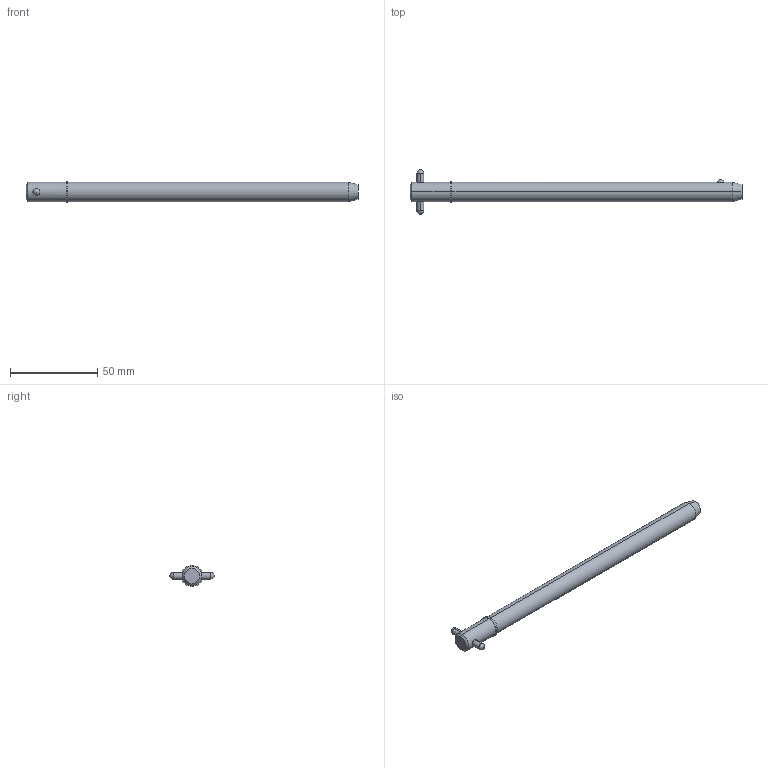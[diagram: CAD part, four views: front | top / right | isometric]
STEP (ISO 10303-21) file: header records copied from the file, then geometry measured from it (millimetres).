
FILE_DESCRIPTION (( 'STEP AP203' ), '1' );
FILE_NAME ('33018.W4360.step', '2024-11-19T17:14:06', ( '' ), ( '' ), 'SwSTEP 2.0', 'SolidWorks 2019', '' );
FILE_SCHEMA (( 'CONFIG_CONTROL_DESIGN' ));
Length unit declared in the file: millimetre
Products named in the file (3): 33018.W4360; Part1_33018.W4360; Part2_33018.W4360
Assembly tree (2 placements, depth 2):
  33018.W4360
    Part1_33018.W4360
    Part2_33018.W4360
Bounding box: 190.8 x 25.4 x 12.22 mm (x, y, z)
Volume: 18558.1 mm3; surface area: 7247.6 mm2
Topology: 2 solids, 2 shells, 22 faces, 47 edges, 30 vertices
Faces by surface type: cylinder 10, sphere 4, cone 4, plane 4
Entity records: 1031 total; most frequent: CARTESIAN_POINT 274, DIRECTION 110, ORIENTED_EDGE 82, AXIS2_PLACEMENT_3D 48, EDGE_CURVE 41, EDGE_LOOP 27, PERSON_AND_ORGANIZATION 26, VERTEX_POINT 26
